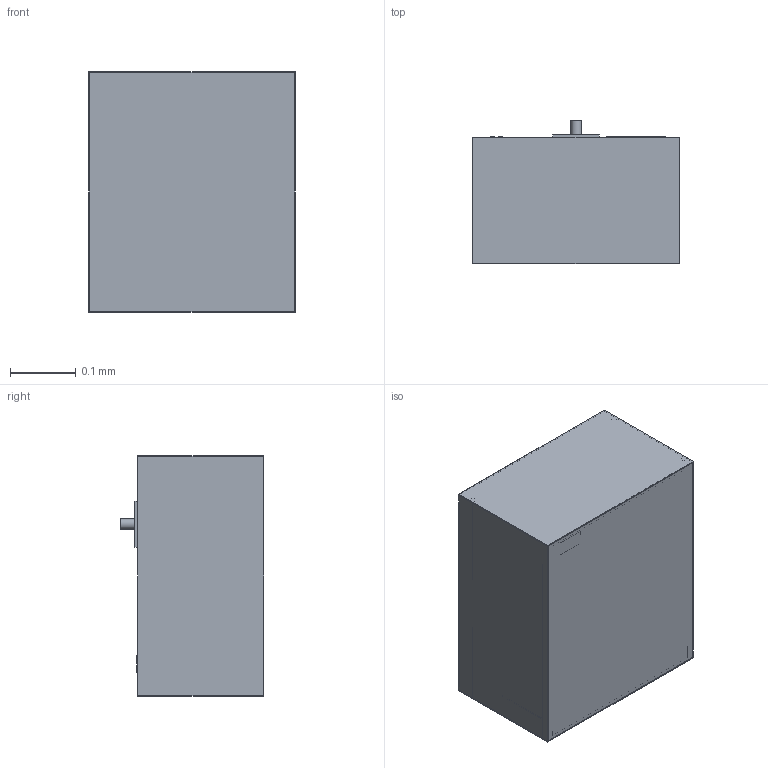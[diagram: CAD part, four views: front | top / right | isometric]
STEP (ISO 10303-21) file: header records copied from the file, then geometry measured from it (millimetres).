
FILE_DESCRIPTION(('Open CASCADE Model'),'2;1');
FILE_NAME('Open CASCADE Shape Model','2026-10-04T13:16:07',('Author'),( 'Open CASCADE'),'Open CASCADE STEP processor 7.9','Open CASCADE 7.9' ,'Unknown');
FILE_SCHEMA(('AUTOMOTIVE_DESIGN { 1 0 10303 214 1 1 1 1 }'));
Length unit declared in the file: millimetre
Products named in the file (109): MOD-protein-crystals; fluid__protein_227_mL; fluid__protein_port; fluid__precipitant_227_mL; fluid__precipitant_port; electronics__controller_enclosure_boards_data_storage; electronics__connector_1; electronics__connector_2; sample__capillary_rack_with_gel_plugs; sample__capillary_1; sample__capillary_2; sample__capillary_3; sample__capillary_4; sample__capillary_5; sample__capillary_6; sample__capillary_7; sample__capillary_8; imaging__microscope_base_optics_filter_cubes_camera; imaging__objective; imaging__stage_post_1; imaging__stage_post_2; imaging__stage_post_3; imaging__stage_post_4; imaging__XY_stage_frame_travel_96_5_x_57_9_mm_every_well_over_the_
objective; imaging__stage_carriage; imaging__X_stepper; imaging__Y_stepper; imaging__illumination_column; imaging__illumination_arm; imaging__arm_to_head; imaging__LED_head_transmitted_light; sample__cassette_24_wells_SBS_footprint_19_3_mm_pitch; sample__culture_in_the_wells; sample__cassette_lid_sealed_and_gas_permeable; sample__cassette_fluid_port_1; sample__cassette_fluid_port_2; pump__fluid_manifold; pump__micro_pump_1; pump__micro_pump_2; pump__valve_1 ...
Assembly tree (108 placements, depth 2):
  MOD-protein-crystals
    fluid__protein_227_mL
    fluid__protein_port
    fluid__precipitant_227_mL
    fluid__precipitant_port
    electronics__controller_enclosure_boards_data_storage
    electronics__connector_1
    electronics__connector_2
    sample__capillary_rack_with_gel_plugs
    sample__capillary_1
    sample__capillary_2
    sample__capillary_3
    sample__capillary_4
    sample__capillary_5
    sample__capillary_6
    sample__capillary_7
    sample__capillary_8
    imaging__microscope_base_optics_filter_cubes_camera
    imaging__objective
    imaging__stage_post_1
    imaging__stage_post_2
    imaging__stage_post_3
    imaging__stage_post_4
    imaging__XY_stage_frame_travel_96_5_x_57_9_mm_every_well_over_the_
objective
    imaging__stage_carriage
    imaging__X_stepper
    imaging__Y_stepper
    imaging__illumination_column
    imaging__illumination_arm
    imaging__arm_to_head
    imaging__LED_head_transmitted_light
    sample__cassette_24_wells_SBS_footprint_19_3_mm_pitch
    sample__culture_in_the_wells
    sample__cassette_lid_sealed_and_gas_permeable
    sample__cassette_fluid_port_1
    sample__cassette_fluid_port_2
    pump__fluid_manifold
    pump__micro_pump_1
    pump__micro_pump_2
    pump__valve_1
    pump__valve_2
    pump__valve_3
    pump__valve_4
    pump__manifold_inlet
    pump__manifold_outlet
    sensor__sensor_pack
    sensor__sensor_pack_head_1
    sensor__sensor_pack_head_2
    housing__bottom_panel
    housing__top_panel
    housing__side_panel_L
    housing__side_panel_R
    housing__back_panel_bay_interface
    housing__front_panel
    housing__corner_post_1
    housing__corner_post_2
    housing__corner_post_3
    housing__corner_post_4
    housing__shelf_1
    thermal__cold_wall_to_the_bay_s_thermoelectric_block
Bounding box: 0.31 x 0.22 x 0.37 mm (x, y, z)
Volume: 0 mm3; surface area: 1.8 mm2
Topology: 132 solids, 132 shells, 568 faces, 840 edges, 560 vertices
Faces by surface type: plane 440, cylinder 128
Full cylindrical faces by diameter (mm): 0.003 x29, 0.005 x22, 0.006 x4, 0.008 x2, 0.009 x4, 0.01 x4, 0.012 x2, 0.015 x24, 0.016 x25, 0.02 x2, 0.022 x1, 0.028 x1
Entity records: 26072 total; most frequent: DIRECTION 4122, CARTESIAN_POINT 3805, LINE 2008, VECTOR 2008, ORIENTED_EDGE 1680, PCURVE 1680, DEFINITIONAL_REPRESENTATION 1680, AXIS2_PLACEMENT_3D 933
